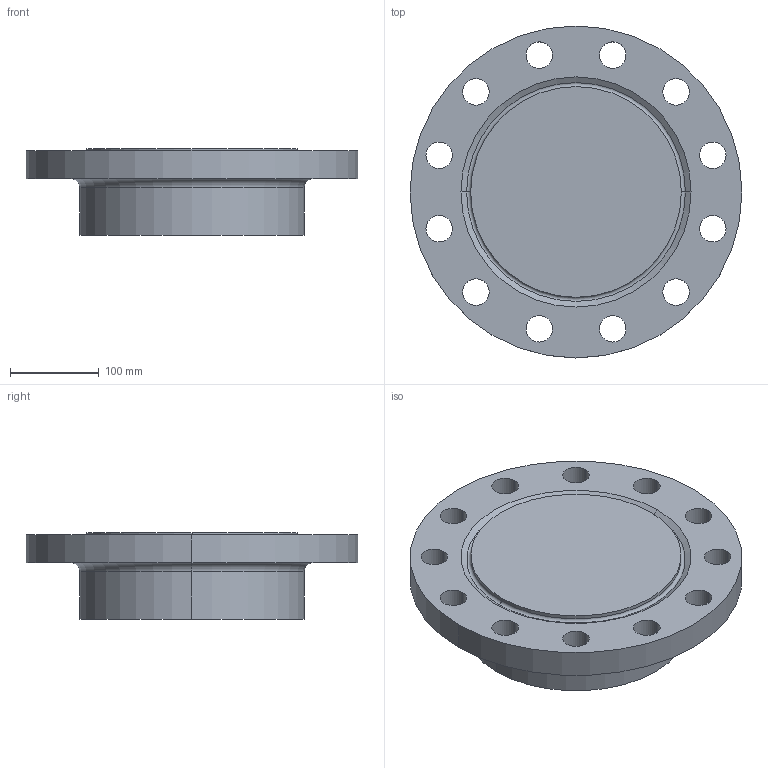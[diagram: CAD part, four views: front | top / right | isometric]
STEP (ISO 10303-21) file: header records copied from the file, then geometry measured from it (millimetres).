
FILE_DESCRIPTION (( 'STEP AP214' ), '1' );
FILE_NAME ('PN40 DN200 Type 21(i) - Type H Face.STEP', '2019-01-05T02:03:57', ( '' ), ( '' ), 'SwSTEP 2.0', 'SolidWorks 2019', '' );
FILE_SCHEMA (( 'AUTOMOTIVE_DESIGN' ));
Length unit declared in the file: millimetre
Products named in the file (1): PN40 DN200 Type 21(i) - Type H Face
Bounding box: 375 x 375 x 98 mm (x, y, z)
Volume: 6559102.6 mm3; surface area: 329626.6 mm2
Topology: 1 solids, 1 shells, 40 faces, 102 edges, 66 vertices
Faces by surface type: cylinder 30, torus 4, plane 4, cone 2
Entity records: 1330 total; most frequent: DIRECTION 254, CARTESIAN_POINT 209, ORIENTED_EDGE 204, AXIS2_PLACEMENT_3D 111, EDGE_CURVE 102, CIRCLE 70, EDGE_LOOP 66, VERTEX_POINT 66
